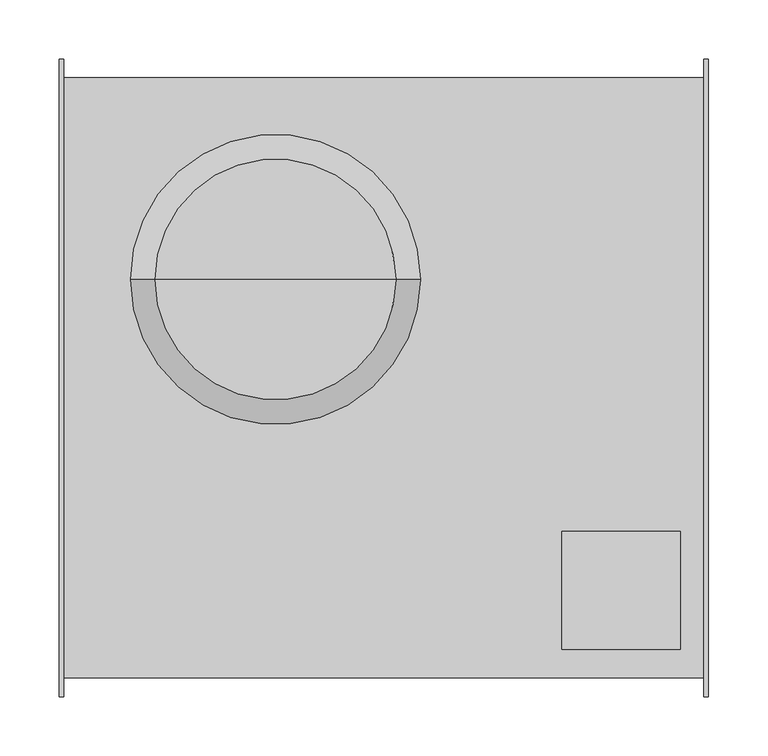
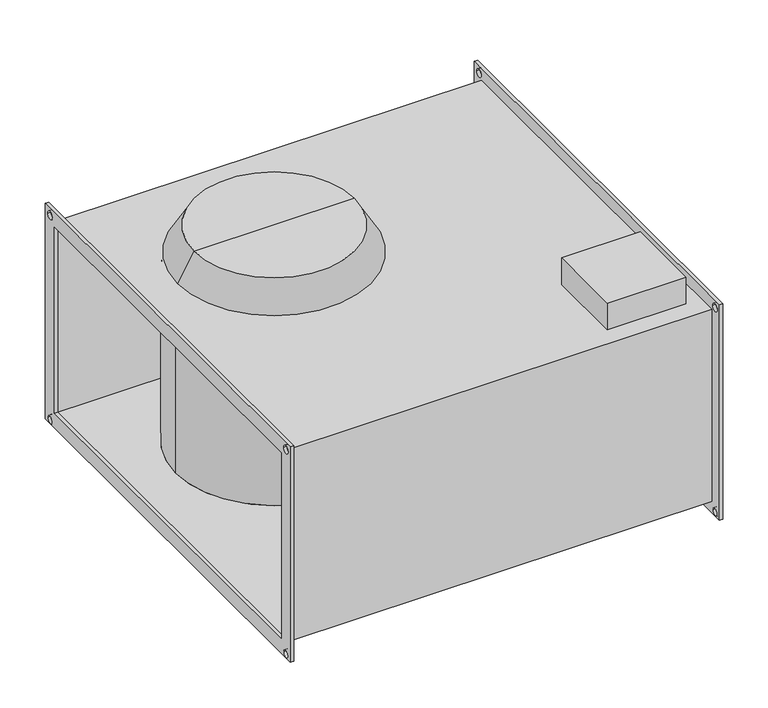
"""IFC4 building model written with IfcOpenShell, lengths in millimetres: proxy geometry."""

from ifc_helpers import new_model, si_unit, frame, origin, place, context, project, spatial, polyline, circle_curve, source, transform, mapped, element, save
from ifc_brep_helpers import plane_surface, cylinder_surface, revolved_surface, advanced_brep


def mechanical_equipment_da5204e7(model_context):
    return source(origin(), model_context, "Body", "AdvancedBrep", [
        advanced_brep(
        [(271.0, 270.0, 145.0), (271.0, 270.0, -145.0), (271.0, 260.0, -145.0), (271.0, 265.0, -140.0), (271.0, 255.0, -140.0), (271.0, -260.0, -145.0), (271.0, -255.0, -140.0), (271.0, -265.0, -140.0), (271.0, -270.0, -145.0), (271.0, -270.0, 145.0), (271.0, 250.0, 125.0), (271.0, -250.0, 125.0), (271.0, -250.0, -125.0), (271.0, 250.0, -125.0), (271.0, 255.0, 135.0), (271.0, 265.0, 135.0), (271.0, -265.0, 135.0), (271.0, -255.0, 135.0), (275.0, 270.0, 145.0), (275.0, -270.0, 145.0), (275.0, -270.0, -145.0), (275.0, -260.0, -145.0), (275.0, -265.0, -140.0), (275.0, -255.0, -140.0), (275.0, 260.0, -145.0), (275.0, 255.0, -140.0), (275.0, 265.0, -140.0), (275.0, 270.0, -145.0), (275.0, 250.0, 125.0), (275.0, 250.0, -125.0), (275.0, -250.0, -125.0), (275.0, -250.0, 125.0), (275.0, 265.0, 135.0), (275.0, 255.0, 135.0), (275.0, -255.0, 135.0), (275.0, -265.0, 135.0)],
        [
            (0, 1),
            (1, 2),
            (2, 3, circle_curve(frame((271.0, 260.0, -140.0), z_axis=(1.0, 0.0, 0.0), x_axis=(0.0, 1.0, 0.0)), 5.0)),
            (3, 4, circle_curve(frame((271.0, 260.0, -140.0), z_axis=(1.0, 0.0, 0.0), x_axis=(0.0, 1.0, 0.0)), 5.0)),
            (4, 2, circle_curve(frame((271.0, 260.0, -140.0), z_axis=(1.0, 0.0, 0.0), x_axis=(0.0, 1.0, 0.0)), 5.0)),
            (2, 5),
            (5, 6, circle_curve(frame((271.0, -260.0, -140.0), z_axis=(1.0, 0.0, 0.0), x_axis=(0.0, 1.0, 0.0)), 5.0)),
            (6, 7, circle_curve(frame((271.0, -260.0, -140.0), z_axis=(1.0, 0.0, 0.0), x_axis=(0.0, 1.0, 0.0)), 5.0)),
            (7, 5, circle_curve(frame((271.0, -260.0, -140.0), z_axis=(1.0, 0.0, 0.0), x_axis=(0.0, 1.0, 0.0)), 5.0)),
            (5, 8),
            (8, 9),
            (9, 0),
            (10, 11),
            (11, 12),
            (12, 13),
            (13, 10),
            (14, 15, circle_curve(frame((271.0, 260.0, 135.0), z_axis=(1.0, 0.0, 0.0), x_axis=(0.0, 1.0, 0.0)), 5.0)),
            (15, 14, circle_curve(frame((271.0, 260.0, 135.0), z_axis=(1.0, 0.0, 0.0), x_axis=(0.0, 1.0, 0.0)), 5.0)),
            (16, 17, circle_curve(frame((271.0, -260.0, 135.0), z_axis=(1.0, 0.0, 0.0), x_axis=(0.0, 1.0, 0.0)), 5.0)),
            (17, 16, circle_curve(frame((271.0, -260.0, 135.0), z_axis=(1.0, 0.0, 0.0), x_axis=(0.0, 1.0, 0.0)), 5.0)),
            (18, 19),
            (19, 20),
            (20, 21),
            (21, 22, circle_curve(frame((275.0, -260.0, -140.0), z_axis=(-1.0, 0.0, 0.0), x_axis=(0.0, 1.0, 0.0)), 5.0)),
            (22, 23, circle_curve(frame((275.0, -260.0, -140.0), z_axis=(-1.0, 0.0, 0.0), x_axis=(0.0, 1.0, 0.0)), 5.0)),
            (23, 21, circle_curve(frame((275.0, -260.0, -140.0), z_axis=(-1.0, 0.0, 0.0), x_axis=(0.0, 1.0, 0.0)), 5.0)),
            (21, 24),
            (24, 25, circle_curve(frame((275.0, 260.0, -140.0), z_axis=(-1.0, 0.0, 0.0), x_axis=(0.0, 1.0, 0.0)), 5.0)),
            (25, 26, circle_curve(frame((275.0, 260.0, -140.0), z_axis=(-1.0, 0.0, 0.0), x_axis=(0.0, 1.0, 0.0)), 5.0)),
            (26, 24, circle_curve(frame((275.0, 260.0, -140.0), z_axis=(-1.0, 0.0, 0.0), x_axis=(0.0, 1.0, 0.0)), 5.0)),
            (24, 27),
            (27, 18),
            (28, 29),
            (29, 30),
            (30, 31),
            (31, 28),
            (32, 33, circle_curve(frame((275.0, 260.0, 135.0), z_axis=(-1.0, 0.0, 0.0), x_axis=(0.0, 1.0, 0.0)), 5.0)),
            (33, 32, circle_curve(frame((275.0, 260.0, 135.0), z_axis=(-1.0, 0.0, 0.0), x_axis=(0.0, 1.0, 0.0)), 5.0)),
            (34, 35, circle_curve(frame((275.0, -260.0, 135.0), z_axis=(-1.0, 0.0, 0.0), x_axis=(0.0, 1.0, 0.0)), 5.0)),
            (35, 34, circle_curve(frame((275.0, -260.0, 135.0), z_axis=(-1.0, 0.0, 0.0), x_axis=(0.0, 1.0, 0.0)), 5.0)),
            (13, 29),
            (28, 10),
            (12, 30),
            (11, 31),
            (9, 19),
            (18, 0),
            (8, 20),
            (1, 27),
            (14, 33),
            (32, 15),
            (16, 35),
            (34, 17),
            (7, 22),
            (23, 6),
            (4, 25),
            (26, 3),
        ],
        [
            plane_surface(frame((271.0, 250.0, -125.0), z_axis=(-1.0, 0.0, 0.0), x_axis=(0.0, 0.0, 1.0))),
            plane_surface(frame((275.0, 250.0, -125.0), z_axis=(1.0, 0.0, 0.0), x_axis=(0.0, 0.0, -1.0))),
            plane_surface(frame((275.0, 250.0, 125.0), z_axis=(0.0, -1.0, 0.0), x_axis=(-1.0, 0.0, 0.0))),
            plane_surface(frame((275.0, 250.0, -125.0), z_axis=(0.0, 0.0, 1.0), x_axis=(-1.0, 0.0, 0.0))),
            plane_surface(frame((275.0, -250.0, -125.0), z_axis=(0.0, 1.0, 0.0), x_axis=(-1.0, 0.0, 0.0))),
            plane_surface(frame((275.0, -250.0, 125.0), z_axis=(0.0, 0.0, -1.0), x_axis=(-1.0, 0.0, 0.0))),
            plane_surface(frame((275.0, 270.0, 145.0), z_axis=(0.0, 0.0, 1.0), x_axis=(-1.0, 0.0, 0.0))),
            plane_surface(frame((275.0, -270.0, 145.0), z_axis=(0.0, -1.0, 0.0), x_axis=(-1.0, 0.0, 0.0))),
            plane_surface(frame((275.0, -270.0, -145.0), z_axis=(0.0, 0.0, -1.0), x_axis=(-1.0, 0.0, 0.0))),
            plane_surface(frame((275.0, 270.0, -145.0), z_axis=(0.0, 1.0, 0.0), x_axis=(-1.0, 0.0, 0.0))),
            revolved_surface(polyline([(275.0, 265.0, 135.0), (271.0, 265.0, 135.0)]), (-275.0, 260.0, 135.0), (1.0, 0.0, 0.0)),
            revolved_surface(polyline([(275.0, -255.0, 135.0), (271.0, -255.0, 135.0)]), (0.0, -260.0, 135.0), (1.0, 0.0, 0.0)),
            revolved_surface(polyline([(275.0, -255.0, -140.0), (271.0, -255.0, -140.0)]), (0.0, -260.0, -140.0), (1.0, 0.0, 0.0)),
            revolved_surface(polyline([(275.0, 265.0, -140.0), (271.0, 265.0, -140.0)]), (0.0, 260.0, -140.0), (1.0, 0.0, 0.0)),
        ],
        [
            (0, [[1, 2, 3, 4, 5, 6, 7, 8, 9, 10, 11, 12], [13, 14, 15, 16], [17, 18], [19, 20]]),
            (1, [[21, 22, 23, 24, 25, 26, 27, 28, 29, 30, 31, 32], [33, 34, 35, 36], [37, 38], [39, 40]]),
            (2, [[-16, 41, -33, 42]]),
            (3, [[-15, 43, -34, -41]]),
            (4, [[-14, 44, -35, -43]]),
            (5, [[-13, -42, -36, -44]]),
            (6, [[-12, 45, -21, 46]]),
            (7, [[-11, 47, -22, -45]]),
            (8, [[-47, -10, -6, -2, 48, -31, -27, -23]]),
            (9, [[-1, -46, -32, -48]]),
            (10, [[49, -37, 50, -17]]),
            (10, [[-49, -18, -50, -38]]),
            (11, [[51, -39, 52, -19]]),
            (11, [[-51, -20, -52, -40]]),
            (12, [[53, -24, -26, 54, -7, -9]]),
            (12, [[-53, -8, -54, -25]]),
            (13, [[55, -28, -30, 56, -3, -5]]),
            (13, [[-55, -4, -56, -29]]),
        ],
    ),
        advanced_brep(
        [(-275.0, -270.0, 145.0), (-275.0, 270.0, 145.0), (-275.0, 270.0, -145.0), (-275.0, 260.0, -145.0), (-275.0, 265.0, -140.0), (-275.0, 255.0, -140.0), (-275.0, -260.0, -145.0), (-275.0, -255.0, -140.0), (-275.0, -265.0, -140.0), (-275.0, -270.0, -145.0), (-275.0, -250.0, 125.0), (-275.0, -250.0, -125.0), (-275.0, 250.0, -125.0), (-275.0, 250.0, 125.0), (-275.0, 255.0, 135.0), (-275.0, 265.0, 135.0), (-275.0, -265.0, 135.0), (-275.0, -255.0, 135.0), (-271.0, -270.0, 145.0), (-271.0, -270.0, -145.0), (-271.0, -260.0, -145.0), (-271.0, -265.0, -140.0), (-271.0, -255.0, -140.0), (-271.0, 260.0, -145.0), (-271.0, 255.0, -140.0), (-271.0, 265.0, -140.0), (-271.0, 270.0, -145.0), (-271.0, 270.0, 145.0), (-271.0, -250.0, 125.0), (-271.0, 250.0, 125.0), (-271.0, 250.0, -125.0), (-271.0, -250.0, -125.0), (-271.0, 265.0, 135.0), (-271.0, 255.0, 135.0), (-271.0, -255.0, 135.0), (-271.0, -265.0, 135.0)],
        [
            (0, 1),
            (1, 2),
            (2, 3),
            (3, 4, circle_curve(frame((-275.0, 260.0, -140.0), z_axis=(1.0, 0.0, 0.0), x_axis=(0.0, 1.0, 0.0)), 5.0)),
            (4, 5, circle_curve(frame((-275.0, 260.0, -140.0), z_axis=(1.0, 0.0, 0.0), x_axis=(0.0, 1.0, 0.0)), 5.0)),
            (5, 3, circle_curve(frame((-275.0, 260.0, -140.0), z_axis=(1.0, 0.0, 0.0), x_axis=(0.0, 1.0, 0.0)), 5.0)),
            (3, 6),
            (6, 7, circle_curve(frame((-275.0, -260.0, -140.0), z_axis=(1.0, 0.0, 0.0), x_axis=(0.0, 1.0, 0.0)), 5.0)),
            (7, 8, circle_curve(frame((-275.0, -260.0, -140.0), z_axis=(1.0, 0.0, 0.0), x_axis=(0.0, 1.0, 0.0)), 5.0)),
            (8, 6, circle_curve(frame((-275.0, -260.0, -140.0), z_axis=(1.0, 0.0, 0.0), x_axis=(0.0, 1.0, 0.0)), 5.0)),
            (6, 9),
            (9, 0),
            (10, 11),
            (11, 12),
            (12, 13),
            (13, 10),
            (14, 15, circle_curve(frame((-275.0, 260.0, 135.0), z_axis=(1.0, 0.0, 0.0), x_axis=(0.0, 1.0, 0.0)), 5.0)),
            (15, 14, circle_curve(frame((-275.0, 260.0, 135.0), z_axis=(1.0, 0.0, 0.0), x_axis=(0.0, 1.0, 0.0)), 5.0)),
            (16, 17, circle_curve(frame((-275.0, -260.0, 135.0), z_axis=(1.0, 0.0, 0.0), x_axis=(0.0, 1.0, 0.0)), 5.0)),
            (17, 16, circle_curve(frame((-275.0, -260.0, 135.0), z_axis=(1.0, 0.0, 0.0), x_axis=(0.0, 1.0, 0.0)), 5.0)),
            (18, 19),
            (19, 20),
            (20, 21, circle_curve(frame((-271.0, -260.0, -140.0), z_axis=(-1.0, 0.0, 0.0), x_axis=(0.0, 1.0, 0.0)), 5.0)),
            (21, 22, circle_curve(frame((-271.0, -260.0, -140.0), z_axis=(-1.0, 0.0, 0.0), x_axis=(0.0, 1.0, 0.0)), 5.0)),
            (22, 20, circle_curve(frame((-271.0, -260.0, -140.0), z_axis=(-1.0, 0.0, 0.0), x_axis=(0.0, 1.0, 0.0)), 5.0)),
            (20, 23),
            (23, 24, circle_curve(frame((-271.0, 260.0, -140.0), z_axis=(-1.0, 0.0, 0.0), x_axis=(0.0, 1.0, 0.0)), 5.0)),
            (24, 25, circle_curve(frame((-271.0, 260.0, -140.0), z_axis=(-1.0, 0.0, 0.0), x_axis=(0.0, 1.0, 0.0)), 5.0)),
            (25, 23, circle_curve(frame((-271.0, 260.0, -140.0), z_axis=(-1.0, 0.0, 0.0), x_axis=(0.0, 1.0, 0.0)), 5.0)),
            (23, 26),
            (26, 27),
            (27, 18),
            (28, 29),
            (29, 30),
            (30, 31),
            (31, 28),
            (32, 33, circle_curve(frame((-271.0, 260.0, 135.0), z_axis=(-1.0, 0.0, 0.0), x_axis=(0.0, 1.0, 0.0)), 5.0)),
            (33, 32, circle_curve(frame((-271.0, 260.0, 135.0), z_axis=(-1.0, 0.0, 0.0), x_axis=(0.0, 1.0, 0.0)), 5.0)),
            (34, 35, circle_curve(frame((-271.0, -260.0, 135.0), z_axis=(-1.0, 0.0, 0.0), x_axis=(0.0, 1.0, 0.0)), 5.0)),
            (35, 34, circle_curve(frame((-271.0, -260.0, 135.0), z_axis=(-1.0, 0.0, 0.0), x_axis=(0.0, 1.0, 0.0)), 5.0)),
            (9, 19),
            (18, 0),
            (2, 26),
            (1, 27),
            (13, 29),
            (28, 10),
            (12, 30),
            (11, 31),
            (14, 33),
            (32, 15),
            (16, 35),
            (34, 17),
            (8, 21),
            (22, 7),
            (5, 24),
            (25, 4),
        ],
        [
            plane_surface(frame((-275.0, -270.0, 145.0), z_axis=(-1.0, 0.0, 0.0), x_axis=(0.0, 0.0, 1.0))),
            plane_surface(frame((-271.0, -270.0, 145.0), z_axis=(1.0, 0.0, 0.0), x_axis=(0.0, 0.0, -1.0))),
            plane_surface(frame((-271.0, -270.0, 145.0), z_axis=(0.0, -1.0, 0.0), x_axis=(-1.0, 0.0, 0.0))),
            plane_surface(frame((-271.0, -270.0, -145.0), z_axis=(0.0, 0.0, -1.0), x_axis=(-1.0, 0.0, 0.0))),
            plane_surface(frame((-271.0, 270.0, -145.0), z_axis=(0.0, 1.0, 0.0), x_axis=(-1.0, 0.0, 0.0))),
            plane_surface(frame((-271.0, 270.0, 145.0), z_axis=(0.0, 0.0, 1.0), x_axis=(-1.0, 0.0, 0.0))),
            plane_surface(frame((-271.0, -250.0, 125.0), z_axis=(0.0, 0.0, -1.0), x_axis=(-1.0, 0.0, 0.0))),
            plane_surface(frame((-271.0, 250.0, 125.0), z_axis=(0.0, -1.0, 0.0), x_axis=(-1.0, 0.0, 0.0))),
            plane_surface(frame((-271.0, 250.0, -125.0), z_axis=(0.0, 0.0, 1.0), x_axis=(-1.0, 0.0, 0.0))),
            plane_surface(frame((-271.0, -250.0, -125.0), z_axis=(0.0, 1.0, 0.0), x_axis=(-1.0, 0.0, 0.0))),
            revolved_surface(polyline([(-271.0, 265.0, 135.0), (-275.0, 265.0, 135.0)]), (-275.0, 260.0, 135.0), (1.0, 0.0, 0.0)),
            revolved_surface(polyline([(-271.0, -255.0, 135.0), (-275.0, -255.0, 135.0)]), (0.0, -260.0, 135.0), (1.0, 0.0, 0.0)),
            revolved_surface(polyline([(-271.0, -255.0, -140.0), (-275.0, -255.0, -140.0)]), (0.0, -260.0, -140.0), (1.0, 0.0, 0.0)),
            revolved_surface(polyline([(-271.0, 265.0, -140.0), (-275.0, 265.0, -140.0)]), (0.0, 260.0, -140.0), (1.0, 0.0, 0.0)),
        ],
        [
            (0, [[1, 2, 3, 4, 5, 6, 7, 8, 9, 10, 11, 12], [13, 14, 15, 16], [17, 18], [19, 20]]),
            (1, [[21, 22, 23, 24, 25, 26, 27, 28, 29, 30, 31, 32], [33, 34, 35, 36], [37, 38], [39, 40]]),
            (2, [[-12, 41, -21, 42]]),
            (3, [[-41, -11, -7, -3, 43, -30, -26, -22]]),
            (4, [[-2, 44, -31, -43]]),
            (5, [[-1, -42, -32, -44]]),
            (6, [[-16, 45, -33, 46]]),
            (7, [[-15, 47, -34, -45]]),
            (8, [[-14, 48, -35, -47]]),
            (9, [[-13, -46, -36, -48]]),
            (10, [[49, -37, 50, -17]]),
            (10, [[-49, -18, -50, -38]]),
            (11, [[51, -39, 52, -19]]),
            (11, [[-51, -20, -52, -40]]),
            (12, [[53, -23, -25, 54, -8, -10]]),
            (12, [[-53, -9, -54, -24]]),
            (13, [[55, -27, -29, 56, -4, -6]]),
            (13, [[-55, -5, -56, -28]]),
        ],
    ),
        advanced_brep(
        [(-91.6666667, 83.3333333, 165.0), (-193.5726559, 83.3333333, 165.0), (10.2393226, 83.3333333, 165.0), (-216.6666667, 83.3333333, 125.0), (-216.6666667, 83.3333333, -125.0), (33.3333333, 83.3333333, -125.0), (33.3333333, 83.3333333, 125.0), (271.0, -254.0, 129.0), (271.0, -254.0, -129.0), (271.0, 254.0, -129.0), (271.0, 254.0, 129.0), (271.0, 250.0, 125.0), (271.0, 250.0, -125.0), (271.0, -250.0, -125.0), (271.0, -250.0, 125.0), (-271.0, -254.0, 129.0), (-271.0, 254.0, 129.0), (-271.0, 254.0, -129.0), (-271.0, -254.0, -129.0), (-271.0, 250.0, 125.0), (-271.0, -250.0, 125.0), (-271.0, -250.0, -125.0), (-271.0, 250.0, -125.0), (151.0, -130.0, 129.0), (251.0, -130.0, 129.0), (251.0, -230.0, 129.0), (151.0, -230.0, 129.0), (31.0239323, 83.3333333, 129.0), (-214.3572656, 83.3333333, 129.0), (251.0, -130.0, 165.0), (151.0, -130.0, 165.0), (151.0, -230.0, 165.0), (251.0, -230.0, 165.0)],
        [
            (0, 1),
            (1, 2, circle_curve(frame((-91.6666667, 83.3333333, 165.0), z_axis=(0.0, 0.0, 1.0), x_axis=(-1.0, 0.0, 0.0)), 101.9059892)),
            (2, 0),
            (2, 1, circle_curve(frame((-91.6666667, 83.3333333, 165.0), z_axis=(0.0, 0.0, 1.0), x_axis=(-1.0, 0.0, 0.0)), 101.9059892)),
            (3, 4),
            (4, 5, circle_curve(frame((-91.6666667, 83.3333333, -125.0), z_axis=(0.0, 0.0, 1.0), x_axis=(-1.0, 0.0, 0.0)), 125.0)),
            (5, 6),
            (6, 3, circle_curve(frame((-91.6666667, 83.3333333, 125.0), z_axis=(0.0, 0.0, -1.0), x_axis=(-1.0, 0.0, 0.0)), 125.0)),
            (3, 6, circle_curve(frame((-91.6666667, 83.3333333, 125.0), z_axis=(0.0, 0.0, -1.0), x_axis=(-1.0, 0.0, 0.0)), 125.0)),
            (5, 4, circle_curve(frame((-91.6666667, 83.3333333, -125.0), z_axis=(0.0, 0.0, 1.0), x_axis=(-1.0, 0.0, 0.0)), 125.0)),
            (7, 8),
            (8, 9),
            (9, 10),
            (10, 7),
            (11, 12),
            (12, 13),
            (13, 14),
            (14, 11),
            (15, 16),
            (16, 17),
            (17, 18),
            (18, 15),
            (19, 20),
            (20, 21),
            (21, 22),
            (22, 19),
            (11, 19),
            (22, 12),
            (21, 13),
            (20, 14),
            (7, 15),
            (18, 8),
            (17, 9),
            (16, 10),
            (23, 24),
            (24, 25),
            (25, 26),
            (26, 23),
            (27, 28, circle_curve(frame((-91.6666667, 83.3333333, 129.0), z_axis=(0.0, 0.0, -1.0), x_axis=(-1.0, 0.0, 0.0)), 122.6905989)),
            (28, 27, circle_curve(frame((-91.6666667, 83.3333333, 129.0), z_axis=(0.0, 0.0, -1.0), x_axis=(-1.0, 0.0, 0.0)), 122.6905989)),
            (29, 30),
            (30, 31),
            (31, 32),
            (32, 29),
            (29, 24),
            (23, 30),
            (26, 31),
            (25, 32),
            (1, 28),
            (27, 2),
        ],
        [
            plane_surface(frame((-91.6666667, 83.3333333, 165.0), z_axis=(0.0, 0.0, 1.0), x_axis=(-1.0, 0.0, 0.0))),
            cylinder_surface(frame((-91.6666667, 83.3333333, 2270.3096565), z_axis=(0.0, 0.0, 1.0), x_axis=(-1.0, 0.0, 0.0)), 125.0),
            plane_surface(frame((271.0, 250.0, -125.0), z_axis=(1.0, 0.0, 0.0), x_axis=(0.0, 0.0, -1.0))),
            plane_surface(frame((-271.0, 250.0, -125.0), z_axis=(-1.0, 0.0, 0.0), x_axis=(0.0, 0.0, 1.0))),
            plane_surface(frame((271.0, 250.0, 125.0), z_axis=(0.0, -1.0, 0.0), x_axis=(-1.0, 0.0, 0.0))),
            plane_surface(frame((271.0, 250.0, -125.0), z_axis=(0.0, 0.0, 1.0), x_axis=(-1.0, 0.0, 0.0))),
            plane_surface(frame((271.0, -250.0, -125.0), z_axis=(0.0, 1.0, 0.0), x_axis=(-1.0, 0.0, 0.0))),
            plane_surface(frame((271.0, -250.0, 125.0), z_axis=(0.0, 0.0, -1.0), x_axis=(-1.0, 0.0, 0.0))),
            plane_surface(frame((271.0, -254.0, 129.0), z_axis=(0.0, -1.0, 0.0), x_axis=(-1.0, 0.0, 0.0))),
            plane_surface(frame((271.0, -254.0, -129.0), z_axis=(0.0, 0.0, -1.0), x_axis=(-1.0, 0.0, 0.0))),
            plane_surface(frame((271.0, 254.0, -129.0), z_axis=(0.0, 1.0, 0.0), x_axis=(-1.0, 0.0, 0.0))),
            plane_surface(frame((271.0, 254.0, 129.0), z_axis=(0.0, 0.0, 1.0), x_axis=(-1.0, 0.0, 0.0))),
            plane_surface(frame((151.0, -130.0, 165.0), z_axis=(0.0, 0.0, 1.0), x_axis=(-1.0, 0.0, 0.0))),
            plane_surface(frame((251.0, -130.0, 165.0), z_axis=(0.0, 1.0, 0.0), x_axis=(0.0, 0.0, -1.0))),
            plane_surface(frame((151.0, -130.0, 165.0), z_axis=(-1.0, 0.0, 0.0), x_axis=(0.0, 0.0, -1.0))),
            plane_surface(frame((151.0, -230.0, 165.0), z_axis=(0.0, -1.0, 0.0), x_axis=(0.0, 0.0, -1.0))),
            plane_surface(frame((251.0, -230.0, 165.0), z_axis=(1.0, 0.0, 0.0), x_axis=(0.0, 0.0, -1.0))),
            revolved_surface(polyline([(-216.6666667, 83.3333333, 125.0), (-193.5726559, 83.3333333, 165.0)]), (-91.6666667, 83.3333333, 2270.3096565), (0.0, 0.0, 1.0)),
        ],
        [
            (0, [[1, 2, 3]]),
            (0, [[-1, -3, 4]]),
            (1, [[5, 6, 7, 8]]),
            (1, [[-5, 9, -7, 10]]),
            (2, [[11, 12, 13, 14], [15, 16, 17, 18]]),
            (3, [[19, 20, 21, 22], [23, 24, 25, 26]]),
            (4, [[-15, 27, -26, 28]]),
            (5, [[-16, -28, -25, 29], [-6, -10]]),
            (6, [[-17, -29, -24, 30]]),
            (7, [[-18, -30, -23, -27], [-8, -9]]),
            (8, [[-11, 31, -22, 32]]),
            (9, [[-12, -32, -21, 33]]),
            (10, [[-13, -33, -20, 34]]),
            (11, [[-14, -34, -19, -31], [35, 36, 37, 38], [39, 40]]),
            (12, [[41, 42, 43, 44]]),
            (13, [[-41, 45, -35, 46]]),
            (14, [[-42, -46, -38, 47]]),
            (15, [[-43, -47, -37, 48]]),
            (16, [[-44, -48, -36, -45]]),
            (17, [[-2, 49, -39, 50]]),
            (17, [[-4, -50, -40, -49]]),
        ],
    ),
    ])


if __name__ == "__main__":
    model = new_model("IFC4")
    model_context = context("Model", 3, world=origin())
    ifc_project = project(units=[si_unit("LENGTHUNIT", "METRE", prefix="MILLI")], contexts=[model_context])
    site = spatial("IfcSite", under=ifc_project)
    building = spatial("IfcBuilding", under=site)
    placement = place(None, origin())
    mechanical_equipment_shape = mechanical_equipment_da5204e7(model_context)
    element("IfcBuildingElementProxy", 1, Name="Mechanical Equipment", at=placement, inside=building, context=model_context, shape_type="MappedRepresentation", body=[
        mapped(mechanical_equipment_shape, transform((0.0, 0.0, 0.0), x_axis=(1.0, 0.0, 0.0), y_axis=(0.0, 1.0, 0.0), z_axis=(0.0, 0.0, 1.0))),
    ])
    save(model, "model.ifc")
